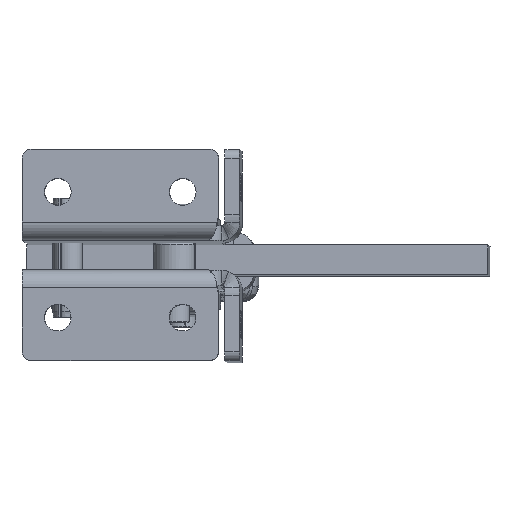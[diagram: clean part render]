
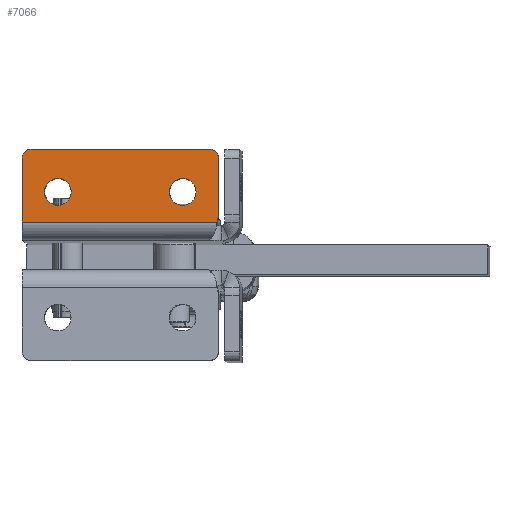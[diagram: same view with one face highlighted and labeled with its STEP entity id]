
A CAD part, front view. The second image highlights one B-rep face of the part: STEP entity #7066.
In plain terms, the highlighted planar face has unit normal (-0.026, -1, 0.021) as drawn and (-1, 0, 0) by its records, which use the part's own axes.
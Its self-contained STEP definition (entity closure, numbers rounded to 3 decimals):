
#155 = ORIENTED_EDGE ( 'NONE', *, *, #13476, .F. ) ;
#211 = DIRECTION ( 'NONE',  ( 0., 0., 1. ) ) ;
#277 = ORIENTED_EDGE ( 'NONE', *, *, #8842, .F. ) ;
#554 = CARTESIAN_POINT ( 'NONE',  ( -1230.301, 3., 27.501 ) ) ;
#609 = DIRECTION ( 'NONE',  ( 0., 0., 1. ) ) ;
#711 = AXIS2_PLACEMENT_3D ( 'NONE', #4258, #11053, #11127 ) ;
#826 = VERTEX_POINT ( 'NONE', #11629 ) ;
#1022 = CIRCLE ( 'NONE', #1934, 3. ) ;
#1185 = DIRECTION ( 'NONE',  ( 0., 0., -1. ) ) ;
#1189 = DIRECTION ( 'NONE',  ( 0., 0., -1. ) ) ;
#1250 = LINE ( 'NONE', #9140, #11876 ) ;
#1331 = ORIENTED_EDGE ( 'NONE', *, *, #12169, .T. ) ;
#1367 = ORIENTED_EDGE ( 'NONE', *, *, #6949, .T. ) ;
#1417 = CARTESIAN_POINT ( 'NONE',  ( -1230.301, 0.355, 6. ) ) ;
#1576 = DIRECTION ( 'NONE',  ( 1., 0., 0. ) ) ;
#1613 = EDGE_CURVE ( 'NONE', #3583, #826, #8145, .T. ) ;
#1620 = CARTESIAN_POINT ( 'NONE',  ( -1230.301, 53.5, 6. ) ) ;
#1934 = AXIS2_PLACEMENT_3D ( 'NONE', #554, #5264, #7333 ) ;
#2229 = VERTEX_POINT ( 'NONE', #9884 ) ;
#2293 = CARTESIAN_POINT ( 'NONE',  ( -1230.301, 53.5, -89.859 ) ) ;
#2320 = EDGE_LOOP ( 'NONE', ( #277, #4515, #5227, #14341, #6892, #9393, #155 ) ) ;
#2378 = CARTESIAN_POINT ( 'NONE',  ( -1230.301, 12., 11.641 ) ) ;
#2508 = CARTESIAN_POINT ( 'NONE',  ( -1230.301, 66., 6. ) ) ;
#2746 = CIRCLE ( 'NONE', #9124, 3. ) ;
#3074 = VERTEX_POINT ( 'NONE', #1417 ) ;
#3169 = CARTESIAN_POINT ( 'NONE',  ( -1230.301, 66., 27.501 ) ) ;
#3251 = EDGE_CURVE ( 'NONE', #4511, #7259, #2746, .T. ) ;
#3311 = CARTESIAN_POINT ( 'NONE',  ( -1230.301, 63., 30.501 ) ) ;
#3336 = DIRECTION ( 'NONE',  ( 0., 0., -1. ) ) ;
#3583 = VERTEX_POINT ( 'NONE', #6182 ) ;
#3596 = AXIS2_PLACEMENT_3D ( 'NONE', #8043, #4712, #1189 ) ;
#3927 = CARTESIAN_POINT ( 'NONE',  ( -1230.301, 10., 8.642 ) ) ;
#3988 = VERTEX_POINT ( 'NONE', #2378 ) ;
#4258 = CARTESIAN_POINT ( 'NONE',  ( -1230.301, 12., 16.141 ) ) ;
#4503 = EDGE_CURVE ( 'NONE', #11430, #3988, #12959, .T. ) ;
#4511 = VERTEX_POINT ( 'NONE', #3169 ) ;
#4515 = ORIENTED_EDGE ( 'NONE', *, *, #9542, .F. ) ;
#4712 = DIRECTION ( 'NONE',  ( 1., 0., 0. ) ) ;
#5004 = LINE ( 'NONE', #1620, #5953 ) ;
#5227 = ORIENTED_EDGE ( 'NONE', *, *, #14126, .F. ) ;
#5264 = DIRECTION ( 'NONE',  ( 1., 0., 0. ) ) ;
#5541 = AXIS2_PLACEMENT_3D ( 'NONE', #12021, #9599, #10627 ) ;
#5716 = AXIS2_PLACEMENT_3D ( 'NONE', #2293, #12387, #7968 ) ;
#5935 = CIRCLE ( 'NONE', #8321, 4.5 ) ;
#5953 = VECTOR ( 'NONE', #13851, 1000. ) ;
#6182 = CARTESIAN_POINT ( 'NONE',  ( -1230.301, 54., 20.641 ) ) ;
#6209 = AXIS2_PLACEMENT_3D ( 'NONE', #3927, #1576, #609 ) ;
#6430 = CIRCLE ( 'NONE', #3596, 4.5 ) ;
#6892 = ORIENTED_EDGE ( 'NONE', *, *, #9471, .F. ) ;
#6907 = EDGE_LOOP ( 'NONE', ( #8781, #1331 ) ) ;
#6949 = EDGE_CURVE ( 'NONE', #3988, #11430, #5935, .T. ) ;
#7066 = ADVANCED_FACE ( 'NONE', ( #13560, #13778, #9214 ), #9079, .F. ) ;
#7078 = VERTEX_POINT ( 'NONE', #2508 ) ;
#7147 = VECTOR ( 'NONE', #13653, 1000. ) ;
#7259 = VERTEX_POINT ( 'NONE', #3311 ) ;
#7305 = CARTESIAN_POINT ( 'NONE',  ( -1230.301, 63., 27.501 ) ) ;
#7333 = DIRECTION ( 'NONE',  ( 0., 0., -1. ) ) ;
#7968 = DIRECTION ( 'NONE',  ( 0., 0., -1. ) ) ;
#7990 = CARTESIAN_POINT ( 'NONE',  ( -1230.301, 63., 30.501 ) ) ;
#8043 = CARTESIAN_POINT ( 'NONE',  ( -1230.301, 54., 16.141 ) ) ;
#8145 = CIRCLE ( 'NONE', #5541, 4.5 ) ;
#8321 = AXIS2_PLACEMENT_3D ( 'NONE', #10471, #12529, #1185 ) ;
#8781 = ORIENTED_EDGE ( 'NONE', *, *, #1613, .T. ) ;
#8842 = EDGE_CURVE ( 'NONE', #3074, #7078, #5004, .T. ) ;
#8953 = EDGE_LOOP ( 'NONE', ( #10628, #1367 ) ) ;
#9079 = PLANE ( 'NONE',  #5716 ) ;
#9124 = AXIS2_PLACEMENT_3D ( 'NONE', #7305, #11807, #9448 ) ;
#9140 = CARTESIAN_POINT ( 'NONE',  ( -1230.301, 66., -89.859 ) ) ;
#9214 = FACE_BOUND ( 'NONE', #6907, .T. ) ;
#9393 = ORIENTED_EDGE ( 'NONE', *, *, #3251, .F. ) ;
#9448 = DIRECTION ( 'NONE',  ( 0., 0., -1. ) ) ;
#9471 = EDGE_CURVE ( 'NONE', #7259, #13570, #13585, .T. ) ;
#9542 = EDGE_CURVE ( 'NONE', #12598, #3074, #12563, .T. ) ;
#9599 = DIRECTION ( 'NONE',  ( 1., 0., 0. ) ) ;
#9782 = CARTESIAN_POINT ( 'NONE',  ( -1230.301, 12., 20.641 ) ) ;
#9884 = CARTESIAN_POINT ( 'NONE',  ( -1230.301, 0., 27.501 ) ) ;
#10471 = CARTESIAN_POINT ( 'NONE',  ( -1230.301, 12., 16.141 ) ) ;
#10627 = DIRECTION ( 'NONE',  ( 0., 0., -1. ) ) ;
#10628 = ORIENTED_EDGE ( 'NONE', *, *, #4503, .T. ) ;
#10802 = EDGE_CURVE ( 'NONE', #13570, #2229, #1022, .T. ) ;
#11053 = DIRECTION ( 'NONE',  ( 1., 0., 0. ) ) ;
#11127 = DIRECTION ( 'NONE',  ( 0., 0., -1. ) ) ;
#11430 = VERTEX_POINT ( 'NONE', #9782 ) ;
#11629 = CARTESIAN_POINT ( 'NONE',  ( -1230.301, 54., 11.641 ) ) ;
#11807 = DIRECTION ( 'NONE',  ( 1., 0., 0. ) ) ;
#11876 = VECTOR ( 'NONE', #211, 1000. ) ;
#12021 = CARTESIAN_POINT ( 'NONE',  ( -1230.301, 54., 16.141 ) ) ;
#12169 = EDGE_CURVE ( 'NONE', #826, #3583, #6430, .T. ) ;
#12387 = DIRECTION ( 'NONE',  ( 1., 0., 0. ) ) ;
#12529 = DIRECTION ( 'NONE',  ( 1., 0., 0. ) ) ;
#12563 = CIRCLE ( 'NONE', #6209, 10. ) ;
#12598 = VERTEX_POINT ( 'NONE', #13444 ) ;
#12959 = CIRCLE ( 'NONE', #711, 4.5 ) ;
#13204 = LINE ( 'NONE', #13425, #14401 ) ;
#13425 = CARTESIAN_POINT ( 'NONE',  ( -1230.301, 0., 27.501 ) ) ;
#13444 = CARTESIAN_POINT ( 'NONE',  ( -1230.301, 0., 8.642 ) ) ;
#13476 = EDGE_CURVE ( 'NONE', #7078, #4511, #1250, .T. ) ;
#13560 = FACE_OUTER_BOUND ( 'NONE', #2320, .T. ) ;
#13570 = VERTEX_POINT ( 'NONE', #14059 ) ;
#13585 = LINE ( 'NONE', #7990, #7147 ) ;
#13653 = DIRECTION ( 'NONE',  ( 0., -1., 0. ) ) ;
#13778 = FACE_BOUND ( 'NONE', #8953, .T. ) ;
#13851 = DIRECTION ( 'NONE',  ( 0., 1., 0. ) ) ;
#14059 = CARTESIAN_POINT ( 'NONE',  ( -1230.301, 3., 30.501 ) ) ;
#14126 = EDGE_CURVE ( 'NONE', #2229, #12598, #13204, .T. ) ;
#14341 = ORIENTED_EDGE ( 'NONE', *, *, #10802, .F. ) ;
#14401 = VECTOR ( 'NONE', #3336, 1000. ) ;
